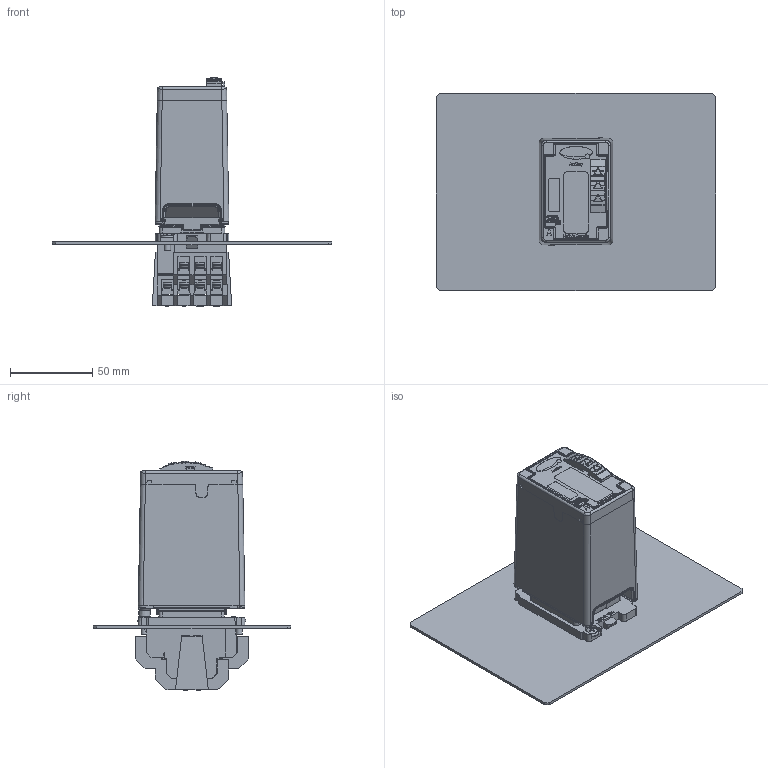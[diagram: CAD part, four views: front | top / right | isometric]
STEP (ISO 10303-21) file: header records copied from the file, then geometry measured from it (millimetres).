
FILE_DESCRIPTION(/* description */ (''),/* implementation_level */ '2;1');
FILE_NAME(/* name */ 'U:\M1 Attachments\CRs\CR1124 - Sales support\FU 153983 - 3D Model Step Files for Delta Enclosures\Surface Mount.stp',/* time_stamp */ '2023-06-28T09:30:26+10:00',/* author */ ('sarah.rady'),/* organization */ (''),/* preprocessor_version */ 'ST-DEVELOPER v19',/* originating_system */ 'Autodesk Inventor 2023',/* authorisation */ '');
FILE_SCHEMA (('AUTOMOTIVE_DESIGN { 1 0 10303 214 3 1 1 }'));
Products named in the file (1): Part2
Bounding box: 170 x 120 x 139.78 mm (x, y, z)
Volume: 327756.4 mm3; surface area: 123101.2 mm2
Topology: 2 solids, 5 shells, 4860 faces, 14182 edges, 9222 vertices
Faces by surface type: plane 3261, bspline 674, cylinder 608, cone 185, torus 82, sphere 50
Full cylindrical faces by diameter (mm): 3.571 x14, 4 x16
Entity records: 178510 total; most frequent: CARTESIAN_POINT 48949, ORIENTED_EDGE 28298, DIRECTION 22811, EDGE_CURVE 14149, LINE 10539, VECTOR 10539, VERTEX_POINT 9222, AXIS2_PLACEMENT_3D 6136
